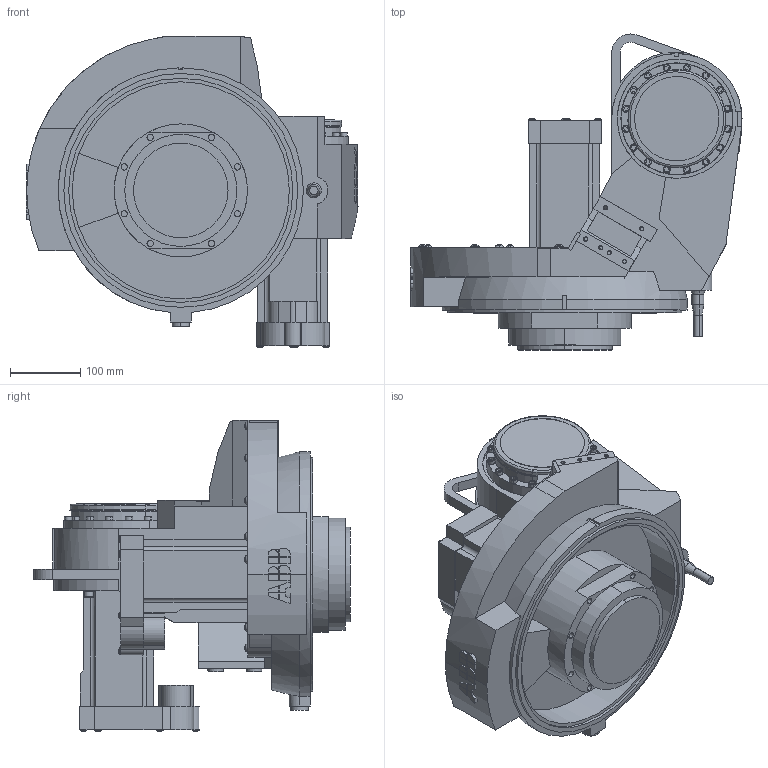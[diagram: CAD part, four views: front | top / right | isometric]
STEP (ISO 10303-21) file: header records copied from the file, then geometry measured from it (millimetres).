
FILE_DESCRIPTION (( 'STEP AP214' ), '1' );
FILE_NAME ('IRB1520ID_4_150__02_link1_step_j.STEP', '2013-04-09T04:57:53', ( 'ABB' ), ( 'ABB' ), 'SwSTEP 2.0', 'SolidWorks 2010', '' );
FILE_SCHEMA (( 'AUTOMOTIVE_DESIGN' ));
Length unit declared in the file: millimetre
Products named in the file (1): IRB1520ID_4_150__02_link1_step_j
Bounding box: 474 x 451.26 x 444.87 mm (x, y, z)
Volume: 17889313.1 mm3; surface area: 1069542.8 mm2
Topology: 3 solids, 20 shells, 1179 faces, 2923 edges, 1893 vertices
Faces by surface type: plane 602, cylinder 426, torus 88, cone 43, bspline 20
Entity records: 50158 total; most frequent: CARTESIAN_POINT 8657, DIRECTION 5972, ORIENTED_EDGE 5846, EDGE_CURVE 2923, AXIS2_PLACEMENT_3D 2100, VERTEX_POINT 1893, LINE 1772, VECTOR 1772
